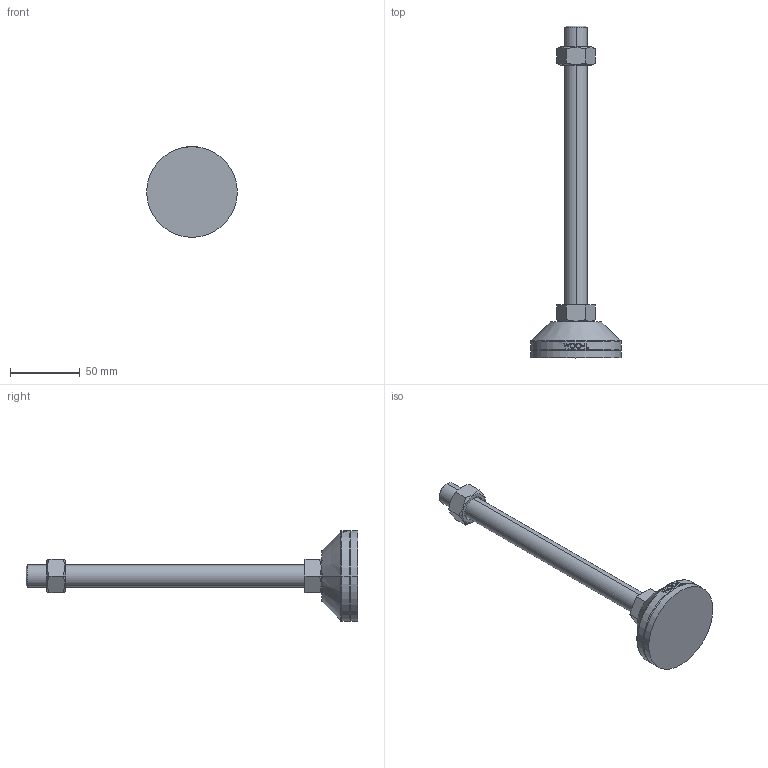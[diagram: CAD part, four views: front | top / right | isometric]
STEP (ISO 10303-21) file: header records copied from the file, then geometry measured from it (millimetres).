
FILE_DESCRIPTION (( 'STEP AP214' ), '1' );
FILE_NAME ('NHNR65-M16-200 (Æò).step', '2021-01-25T06:19:47', ( '' ), ( '' ), 'SwSTEP 2.0', 'SolidWorks 2019', '' );
FILE_SCHEMA (( 'AUTOMOTIVE_DESIGN' ));
Length unit declared in the file: millimetre
Products named in the file (2): NHNR65-M16-200 (ゎ)
Bounding box: 65 x 238 x 65 mm (x, y, z)
Volume: 118448 mm3; surface area: 30686.6 mm2
Topology: 4 solids, 4 shells, 100 faces, 229 edges, 146 vertices
Faces by surface type: plane 48, cylinder 16, bspline 16, cone 14, torus 6
Entity records: 4231 total; most frequent: CARTESIAN_POINT 2025, ORIENTED_EDGE 458, DIRECTION 401, EDGE_CURVE 229, AXIS2_PLACEMENT_3D 152, VERTEX_POINT 146, EDGE_LOOP 111, FACE_OUTER_BOUND 100
